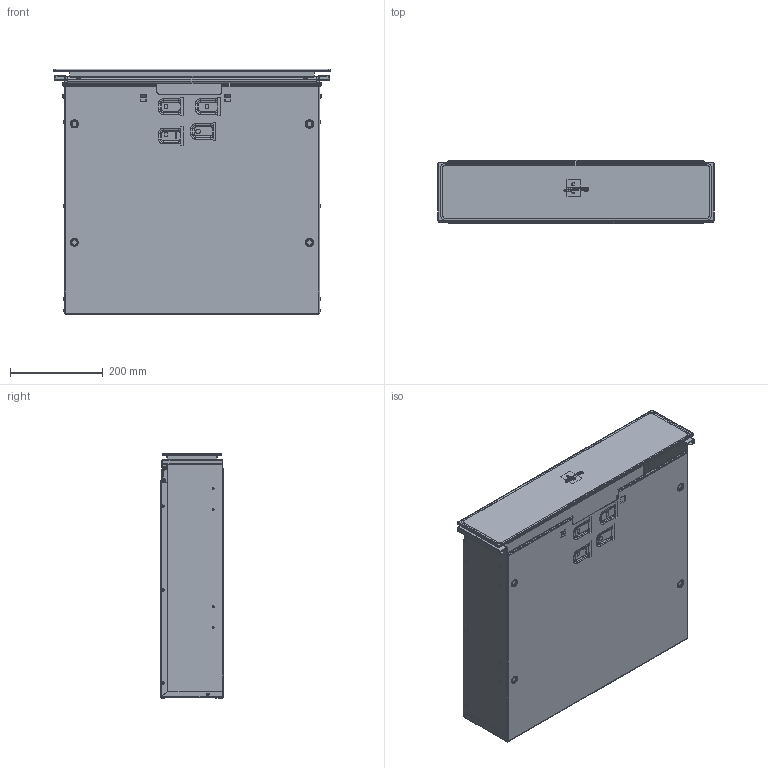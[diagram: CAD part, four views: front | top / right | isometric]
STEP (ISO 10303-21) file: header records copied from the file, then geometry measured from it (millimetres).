
FILE_DESCRIPTION (( 'STEP AP203' ), '1' );
FILE_NAME ('SMEG CPR315N.STEP', '2023-07-10T10:00:50', ( '' ), ( '' ), 'SwSTEP 2.0', 'SolidWorks 2023', '' );
FILE_SCHEMA (( 'CONFIG_CONTROL_DESIGN' ));
Length unit declared in the file: millimetre
Products named in the file (19): 150100060.STEP; 340440323_part_Classica Matt Black.STEP; 220420976_part_Classica MB.STEP; 345105126_part_345105128 Sinistra_1.STEP; 222003293_part_Classica-Coloniale.STEP; 410000053_part.STEP; 345105118_345105118.STEP; Asm Struttura Carter Cassetto_part_Riscaldante_1.STEP; 151200034.STEP; 345105124_345105124.STEP; 758900209.STEP; 345105372.STEP; Asm Cassetto Guide Hettich_part_Cassetto Riscaldante GH_1.STEP; 15010015000 - Vite M4x8 TB INX304_part.STEP; SMEG CPR315N; 150200030 - Rivetto STRP3.2x8 INOX304_3 lamiere sp. 0.8.STEP; 345105126_part_345105126 Destra_1.STEP; SMEG CPR315N.STEP; 345105114_345105114.STEP
Assembly tree (38 placements, depth 6):
  SMEG CPR315N
    SMEG CPR315N.STEP
      Asm Struttura Carter Cassetto_part_Riscaldante_1.STEP
        345105114_345105114.STEP
        345105118_345105118.STEP
        345105124_345105124.STEP
        758900209.STEP
        150100060.STEP  x4
        150200030 - Rivetto STRP3.2x8 INOX304_3 lamiere sp. 0.8.STEP  x12
      Asm Cassetto Guide Hettich_part_Cassetto Riscaldante GH_1.STEP
        220420976_part_Classica MB.STEP
          222003293_part_Classica-Coloniale.STEP
            345105372.STEP
            151200034.STEP  x4
          340440323_part_Classica Matt Black.STEP
          410000053_part.STEP
        15010015000 - Vite M4x8 TB INX304_part.STEP  x4
      345105126_part_345105126 Destra_1.STEP
      345105126_part_345105128 Sinistra_1.STEP
Bounding box: 595 x 135.18 x 528.75 mm (x, y, z)
Volume: 869148.6 mm3; surface area: 2088851.8 mm2
Topology: 33 solids, 33 shells, 2681 faces, 6518 edges, 3945 vertices
Faces by surface type: cylinder 1031, plane 724, torus 580, bspline 210, cone 88, sphere 48
Entity records: 51647 total; most frequent: CARTESIAN_POINT 14616, DIRECTION 7350, ORIENTED_EDGE 7184, EDGE_CURVE 3592, AXIS2_PLACEMENT_3D 2757, VERTEX_POINT 2201, LINE 1836, VECTOR 1836
